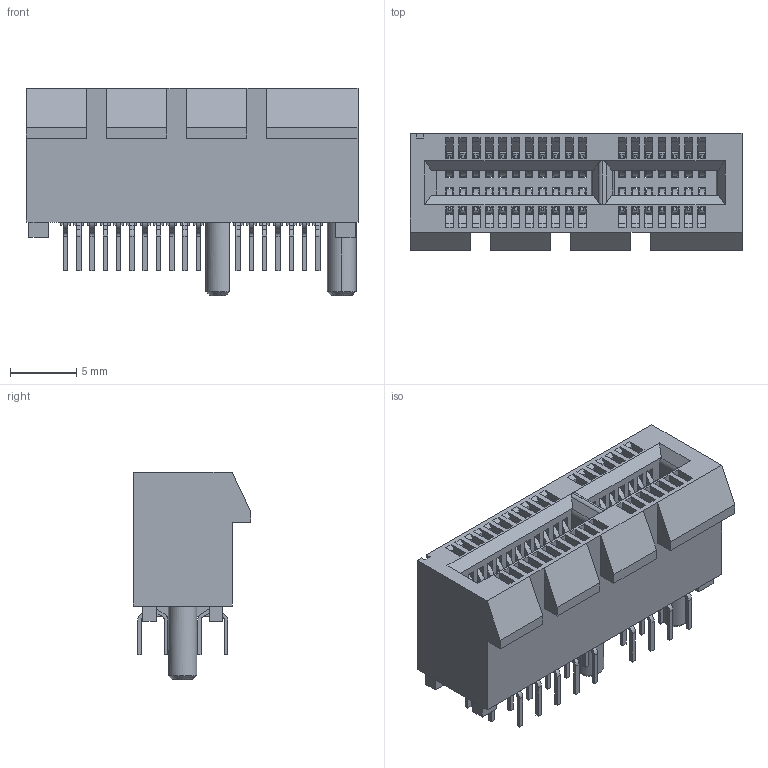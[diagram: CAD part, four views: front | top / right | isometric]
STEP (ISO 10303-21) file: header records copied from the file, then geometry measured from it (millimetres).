
FILE_DESCRIPTION((''),'2;1');
FILE_NAME('877159006','2013-05-03T',('gga'),(''),'PRO/ENGINEER BY PARAMETRIC TECHNOLOGY CORPORATION, 2011490','PRO/ENGINEER BY PARAMETRIC TECHNOLOGY CORPORATION, 2011490','');
FILE_SCHEMA(('CONFIG_CONTROL_DESIGN'));
Products named in the file (1): 877159006
Bounding box: 25 x 8.85 x 15.6 mm (x, y, z)
Volume: 1372.7 mm3; surface area: 3565.1 mm2
Topology: 1 solids, 1 shells, 3500 faces, 11011 edges, 7182 vertices
Faces by surface type: plane 2985, cylinder 512, cone 3
Entity records: 121373 total; most frequent: CARTESIAN_POINT 24860, ORIENTED_EDGE 21870, DIRECTION 17627, EDGE_CURVE 10935, VECTOR 9559, LINE 9559, VERTEX_POINT 7106, AXIS2_PLACEMENT_3D 4034
